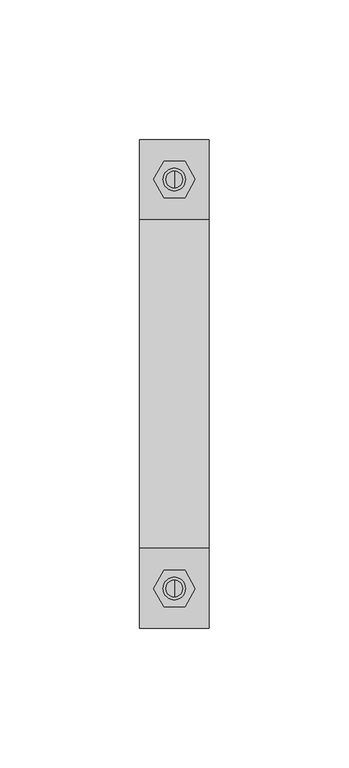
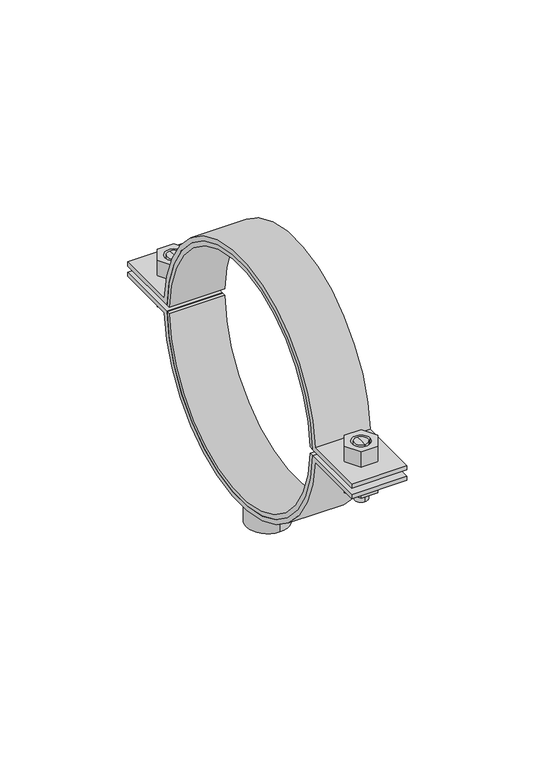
"""IFC4 building model written with IfcOpenShell, lengths in millimetres: valve geometry, Superfix DG2 Clamp Extra + : Superfix DG2 Clamp Extra +."""

from ifc_helpers import new_model, si_unit, point, frame, frame_2d, origin, origin_2d, place, context, project, spatial, polyline, circle_curve, trimmed, segment, composite_curve, outline, extrude, source, transform, mapped, element, save
from ifc_brep_helpers import plane_surface, cylinder_surface, advanced_brep


def valve_7b720bf2(model_context):
    return source(origin(), model_context, "Body", "SolidModel", [
        advanced_brep(
        [(0.0, 76.25, 333.9), (0.0, 70.25, 333.9), (0.0, 70.25, 348.5), (0.0, 76.25, 348.5), (0.0, 73.25, 333.9)],
        [
            (0, 1, circle_curve(frame((0.0, 73.25, 333.9), z_axis=(0.0, 0.0, 1.0), x_axis=(0.0, 1.0, 0.0)), 3.0)),
            (1, 2),
            (2, 3, circle_curve(frame((0.0, 73.25, 348.5), z_axis=(0.0, 0.0, -1.0), x_axis=(0.0, 1.0, 0.0)), 3.0)),
            (3, 0),
            (1, 0, circle_curve(frame((0.0, 73.25, 333.9), z_axis=(0.0, 0.0, 1.0), x_axis=(0.0, 1.0, 0.0)), 3.0)),
            (3, 2, circle_curve(frame((0.0, 73.25, 348.5), z_axis=(0.0, 0.0, -1.0), x_axis=(0.0, 1.0, 0.0)), 3.0)),
            (0, 4),
            (4, 1),
        ],
        [
            cylinder_surface(frame((0.0, 73.25, 348.2806094), z_axis=(0.0, 0.0, 1.0), x_axis=(0.0, 1.0, 0.0)), 3.0),
            plane_surface(frame((0.0, 73.25, 333.9), z_axis=(0.0, 0.0, -1.0), x_axis=(0.0, 1.0, 0.0))),
            plane_surface(frame((13.75, -87.5, 348.5), z_axis=(0.0, 0.0, 1.0), x_axis=(-1.0, 0.0, 0.0))),
        ],
        [
            (0, [[1, 2, 3, 4]]),
            (0, [[5, -4, 6, -2]]),
            (1, [[-1, 7, 8]]),
            (1, [[-5, -8, -7]]),
            (2, [[-3, -6]]),
        ],
    ),
        advanced_brep(
        [(0.0, 70.25, 361.1), (0.0, 76.25, 361.1), (0.0, 76.25, 351.5), (0.0, 70.25, 351.5), (0.0, 73.25, 361.1)],
        [
            (0, 1, circle_curve(frame((0.0, 73.25, 361.1), z_axis=(0.0, 0.0, -1.0), x_axis=(0.0, 1.0, 0.0)), 3.0)),
            (1, 2),
            (2, 3, circle_curve(frame((0.0, 73.25, 351.5), z_axis=(0.0, 0.0, 1.0), x_axis=(0.0, 1.0, 0.0)), 3.0)),
            (3, 0),
            (1, 0, circle_curve(frame((0.0, 73.25, 361.1), z_axis=(0.0, 0.0, -1.0), x_axis=(0.0, 1.0, 0.0)), 3.0)),
            (3, 2, circle_curve(frame((0.0, 73.25, 351.5), z_axis=(0.0, 0.0, 1.0), x_axis=(0.0, 1.0, 0.0)), 3.0)),
            (0, 4),
            (4, 1),
        ],
        [
            cylinder_surface(frame((0.0, 73.25, 348.2806094), z_axis=(0.0, 0.0, 1.0), x_axis=(0.0, 1.0, 0.0)), 3.0),
            plane_surface(frame((0.0, 73.25, 361.1), z_axis=(0.0, 0.0, 1.0), x_axis=(0.0, 1.0, 0.0))),
            plane_surface(frame((13.75, 87.5, 351.5), z_axis=(0.0, 0.0, -1.0), x_axis=(-1.0, 0.0, 0.0))),
        ],
        [
            (0, [[1, 2, 3, 4]]),
            (0, [[5, -4, 6, -2]]),
            (1, [[-1, 7, 8]]),
            (1, [[-5, -8, -7]]),
            (2, [[-3, -6]]),
        ],
    ),
        advanced_brep(
        [(0.0, -76.25, 361.1), (0.0, -70.25, 361.1), (0.0, -70.25, 351.5), (0.0, -76.25, 351.5), (0.0, -73.25, 361.1)],
        [
            (0, 1, circle_curve(frame((0.0, -73.25, 361.1), z_axis=(0.0, 0.0, -1.0), x_axis=(0.0, -1.0, 0.0)), 3.0)),
            (1, 2),
            (2, 3, circle_curve(frame((0.0, -73.25, 351.5), z_axis=(0.0, 0.0, 1.0), x_axis=(0.0, -1.0, 0.0)), 3.0)),
            (3, 0),
            (1, 0, circle_curve(frame((0.0, -73.25, 361.1), z_axis=(0.0, 0.0, -1.0), x_axis=(0.0, -1.0, 0.0)), 3.0)),
            (3, 2, circle_curve(frame((0.0, -73.25, 351.5), z_axis=(0.0, 0.0, 1.0), x_axis=(0.0, -1.0, 0.0)), 3.0)),
            (0, 4),
            (4, 1),
        ],
        [
            cylinder_surface(frame((0.0, -73.25, 348.2806094), z_axis=(0.0, 0.0, -1.0), x_axis=(0.0, -1.0, 0.0)), 3.0),
            plane_surface(frame((0.0, -73.25, 361.1), z_axis=(0.0, 0.0, 1.0), x_axis=(0.0, -1.0, 0.0))),
            plane_surface(frame((13.75, 87.5, 351.5), z_axis=(0.0, 0.0, -1.0), x_axis=(-1.0, 0.0, 0.0))),
        ],
        [
            (0, [[1, 2, 3, 4]]),
            (0, [[5, -4, 6, -2]]),
            (1, [[-1, 7, 8]]),
            (1, [[-5, -8, -7]]),
            (2, [[-3, -6]]),
        ],
    ),
        advanced_brep(
        [(0.0, -70.25, 333.9), (0.0, -76.25, 333.9), (0.0, -76.25, 348.5), (0.0, -70.25, 348.5), (0.0, -73.25, 333.9)],
        [
            (0, 1, circle_curve(frame((0.0, -73.25, 333.9), z_axis=(0.0, 0.0, 1.0), x_axis=(0.0, -1.0, 0.0)), 3.0)),
            (1, 2),
            (2, 3, circle_curve(frame((0.0, -73.25, 348.5), z_axis=(0.0, 0.0, -1.0), x_axis=(0.0, -1.0, 0.0)), 3.0)),
            (3, 0),
            (1, 0, circle_curve(frame((0.0, -73.25, 333.9), z_axis=(0.0, 0.0, 1.0), x_axis=(0.0, -1.0, 0.0)), 3.0)),
            (3, 2, circle_curve(frame((0.0, -73.25, 348.5), z_axis=(0.0, 0.0, -1.0), x_axis=(0.0, -1.0, 0.0)), 3.0)),
            (0, 4),
            (4, 1),
        ],
        [
            cylinder_surface(frame((0.0, -73.25, 348.2806094), z_axis=(0.0, 0.0, -1.0), x_axis=(0.0, -1.0, 0.0)), 3.0),
            plane_surface(frame((0.0, -73.25, 333.9), z_axis=(0.0, 0.0, -1.0), x_axis=(0.0, -1.0, 0.0))),
            plane_surface(frame((13.75, -87.5, 348.5), z_axis=(0.0, 0.0, 1.0), x_axis=(-1.0, 0.0, 0.0))),
        ],
        [
            (0, [[1, 2, 3, 4]]),
            (0, [[5, -4, 6, -2]]),
            (1, [[-1, 7, 8]]),
            (1, [[-5, -8, -7]]),
            (2, [[-3, -6]]),
        ],
    ),
        extrude(outline(composite_curve([segment(trimmed(circle_curve(frame_2d((0.0, 350.0)), 57.0), [point((-56.9802597, 348.5))], [point((56.9802597, 348.5))], True, "CARTESIAN"), True, "CONTINUOUS"), segment(polyline([(56.9802597, 348.5), (87.5, 348.5), (87.5, 346.5), (58.8960949, 346.5)]), True, "CONTINUOUS"), segment(trimmed(circle_curve(frame_2d((0.0, 350.0)), 59.0), [point((58.8960949, 346.5))], [point((-58.8960949, 346.5))], False, "CARTESIAN"), True, "CONTINUOUS"), segment(polyline([(-58.8960949, 346.5), (-87.5, 346.5), (-87.5, 348.5), (-56.9802597, 348.5)]), True, "CONTINUOUS")], self_intersect=False)), frame((-12.5, 0.0, 0.0), z_axis=(1.0, 0.0, 0.0), x_axis=(0.0, 1.0, 0.0)), (0.0, 0.0, 1.0), 25.0),
        extrude(outline(composite_curve([segment(trimmed(circle_curve(frame_2d((0.0, 350.0)), 57.0), [point((56.9802597, 351.5))], [point((-56.9802597, 351.5))], True, "CARTESIAN"), True, "CONTINUOUS"), segment(polyline([(-56.9802597, 351.5), (-87.5, 351.5), (-87.5, 353.5), (-58.8960949, 353.5)]), True, "CONTINUOUS"), segment(trimmed(circle_curve(frame_2d((0.0, 350.0)), 59.0), [point((-58.8960949, 353.5))], [point((58.8960949, 353.5))], False, "CARTESIAN"), True, "CONTINUOUS"), segment(polyline([(58.8960949, 353.5), (87.5, 353.5), (87.5, 351.5), (56.9802597, 351.5)]), True, "CONTINUOUS")], self_intersect=False)), frame((-12.5, 0.0, 0.0), z_axis=(1.0, 0.0, 0.0), x_axis=(0.0, 1.0, 0.0)), (0.0, 0.0, 1.0), 25.0),
        extrude(outline(polyline([(7.5055535, -73.25), (3.7527767, -79.75), (-3.7527767, -79.75), (-7.5055535, -73.25), (-3.7527767, -66.75), (3.7527767, -66.75), (7.5055535, -73.25)]), holes=[composite_curve([segment(trimmed(circle_curve(frame_2d((0.0, -73.25)), 4.0), [point((4.0, -73.25))], [point((-4.0, -73.25))], True, "CARTESIAN"), True, "CONTINUOUS"), segment(trimmed(circle_curve(frame_2d((0.0, -73.25)), 4.0), [point((-4.0, -73.25))], [point((4.0, -73.25))], True, "CARTESIAN"), True, "CONTINUOUS")], self_intersect=False)]), frame((0.0, 0.0, 353.5), z_axis=(0.0, 0.0, 1.0), x_axis=(1.0, 0.0, 0.0)), (0.0, 0.0, 1.0), 7.6),
        extrude(outline(polyline([(7.5055535, 73.25), (3.7527767, 66.75), (-3.7527767, 66.75), (-7.5055535, 73.25), (-3.7527767, 79.75), (3.7527767, 79.75), (7.5055535, 73.25)]), holes=[composite_curve([segment(trimmed(circle_curve(frame_2d((0.0, 73.25)), 4.0), [point((4.0, 73.25))], [point((-4.0, 73.25))], True, "CARTESIAN"), True, "CONTINUOUS"), segment(trimmed(circle_curve(frame_2d((0.0, 73.25)), 4.0), [point((-4.0, 73.25))], [point((4.0, 73.25))], True, "CARTESIAN"), True, "CONTINUOUS")], self_intersect=False)]), frame((0.0, 0.0, 353.5), z_axis=(0.0, 0.0, 1.0), x_axis=(1.0, 0.0, 0.0)), (0.0, 0.0, 1.0), 7.6),
        extrude(outline(polyline([(7.5055535, -73.25), (3.7527767, -79.75), (-3.7527767, -79.75), (-7.5055535, -73.25), (-3.7527767, -66.75), (3.7527767, -66.75), (7.5055535, -73.25)]), holes=[composite_curve([segment(trimmed(circle_curve(frame_2d((0.0, -73.25)), 4.0), [point((4.0, -73.25))], [point((-4.0, -73.25))], True, "CARTESIAN"), True, "CONTINUOUS"), segment(trimmed(circle_curve(frame_2d((0.0, -73.25)), 4.0), [point((-4.0, -73.25))], [point((4.0, -73.25))], True, "CARTESIAN"), True, "CONTINUOUS")], self_intersect=False)]), frame((0.0, 0.0, 338.9), z_axis=(0.0, 0.0, 1.0), x_axis=(1.0, 0.0, 0.0)), (0.0, 0.0, 1.0), 7.6),
        extrude(outline(polyline([(7.5055535, 73.25), (3.7527767, 66.75), (-3.7527767, 66.75), (-7.5055535, 73.25), (-3.7527767, 79.75), (3.7527767, 79.75), (7.5055535, 73.25)]), holes=[composite_curve([segment(trimmed(circle_curve(frame_2d((0.0, 73.25)), 4.0), [point((4.0, 73.25))], [point((-4.0, 73.25))], True, "CARTESIAN"), True, "CONTINUOUS"), segment(trimmed(circle_curve(frame_2d((0.0, 73.25)), 4.0), [point((-4.0, 73.25))], [point((4.0, 73.25))], True, "CARTESIAN"), True, "CONTINUOUS")], self_intersect=False)]), frame((0.0, 0.0, 338.9), z_axis=(0.0, 0.0, 1.0), x_axis=(1.0, 0.0, 0.0)), (0.0, 0.0, 1.0), 7.6),
        extrude(outline(composite_curve([segment(trimmed(circle_curve(origin_2d(), 9.5), [point((0.0, 9.5))], [point((0.0, -9.5))], False, "CARTESIAN"), True, "CONTINUOUS"), segment(trimmed(circle_curve(origin_2d(), 9.5), [point((0.0, -9.5))], [point((0.0, 9.5))], False, "CARTESIAN"), True, "CONTINUOUS")], self_intersect=False), holes=[composite_curve([segment(trimmed(circle_curve(origin_2d(), 6.0), [point((0.0, 6.0))], [point((0.0, -6.0))], True, "CARTESIAN"), True, "CONTINUOUS"), segment(trimmed(circle_curve(origin_2d(), 6.0), [point((0.0, -6.0))], [point((0.0, 6.0))], True, "CARTESIAN"), True, "CONTINUOUS")], self_intersect=False)]), frame((0.0, 0.0, 279.0), z_axis=(0.0, 0.0, 1.0), x_axis=(1.0, 0.0, 0.0)), (0.0, 0.0, 1.0), 14.0),
        extrude(outline(composite_curve([segment(trimmed(circle_curve(frame_2d((0.0, 350.0)), 55.0), [point((54.9795416, 351.5))], [point((-54.9795416, 351.5))], True, "CARTESIAN"), True, "CONTINUOUS"), segment(polyline([(-54.9795416, 351.5), (-56.9802597, 351.5)]), True, "CONTINUOUS"), segment(trimmed(circle_curve(frame_2d((0.0, 350.0)), 57.0), [point((-56.9802597, 351.5))], [point((56.9802597, 351.5))], False, "CARTESIAN"), True, "CONTINUOUS"), segment(polyline([(56.9802597, 351.5), (54.9795416, 351.5)]), True, "CONTINUOUS")], self_intersect=False)), frame((-12.5, 0.0, 0.0), z_axis=(1.0, 0.0, 0.0), x_axis=(0.0, 1.0, 0.0)), (0.0, 0.0, 1.0), 25.0),
        extrude(outline(composite_curve([segment(polyline([(54.9795416, 348.5), (56.9802597, 348.5)]), True, "CONTINUOUS"), segment(trimmed(circle_curve(frame_2d((0.0, 350.0)), 57.0), [point((56.9802597, 348.5))], [point((-56.9802597, 348.5))], False, "CARTESIAN"), True, "CONTINUOUS"), segment(polyline([(-56.9802597, 348.5), (-54.9795416, 348.5)]), True, "CONTINUOUS"), segment(trimmed(circle_curve(frame_2d((0.0, 350.0)), 55.0), [point((-54.9795416, 348.5))], [point((54.9795416, 348.5))], True, "CARTESIAN"), True, "CONTINUOUS")], self_intersect=False)), frame((-12.5, 0.0, 0.0), z_axis=(1.0, 0.0, 0.0), x_axis=(0.0, 1.0, 0.0)), (0.0, 0.0, 1.0), 25.0),
    ])


if __name__ == "__main__":
    model = new_model("IFC4")
    model_context = context("Model", 3, world=origin())
    ifc_project = project(units=[si_unit("LENGTHUNIT", "METRE", prefix="MILLI")], contexts=[model_context])
    site = spatial("IfcSite", under=ifc_project)
    building = spatial("IfcBuilding", under=site)
    placement = place(None, origin())
    valve_shape = valve_7b720bf2(model_context)
    element("IfcValve", 1, ObjectType="Superfix DG2 Clamp Extra + : Superfix DG2 Clamp Extra +", at=placement, inside=building, context=model_context, shape_type="MappedRepresentation", body=[
        mapped(valve_shape, transform((0.0, 0.0, 0.0), x_axis=(1.0, 0.0, 0.0), y_axis=(0.0, 1.0, 0.0), z_axis=(0.0, 0.0, 1.0))),
    ])
    save(model, "model.ifc")
